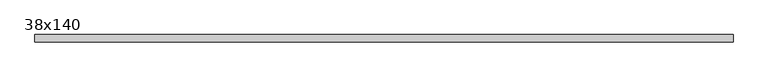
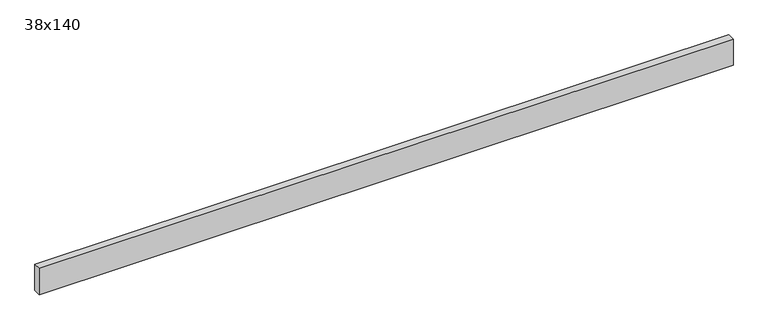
"""IFC4 building model written with IfcOpenShell, lengths in millimetres: beam geometry, Graded Timber : 38x140."""

from ifc_helpers import new_model, si_unit, frame, origin, place, context, project, spatial, polyline, outline, extrude, source, transform, mapped, element, save


def beam_38x140_0e3061da(model_context):
    return source(origin(), model_context, "Body", "SweptSolid", [
        extrude(outline(polyline([(1774.0211083, 19.0), (1774.0211083, -19.0), (-1742.7732391, -19.0), (-1742.7732391, 19.0), (1774.0211083, 19.0)])), frame((0.0, 0.0, -70.0), z_axis=(0.0, 0.0, 1.0), x_axis=(1.0, 0.0, 0.0)), (0.0, 0.0, 1.0), 140.0),
    ])


if __name__ == "__main__":
    model = new_model("IFC4")
    model_context = context("Model", 3, world=origin())
    ifc_project = project(units=[si_unit("LENGTHUNIT", "METRE", prefix="MILLI")], contexts=[model_context])
    site = spatial("IfcSite", under=ifc_project)
    building = spatial("IfcBuilding", under=site)
    placement = place(None, origin())
    beam_38x140_shape = beam_38x140_0e3061da(model_context)
    element("IfcBeam", 1, ObjectType="Graded Timber : 38x140", at=placement, inside=building, context=model_context, shape_type="MappedRepresentation", body=[
        mapped(beam_38x140_shape, transform((0.0, 0.0, 0.0), x_axis=(1.0, 0.0, 0.0), y_axis=(0.0, 1.0, 0.0), z_axis=(0.0, 0.0, 1.0))),
    ])
    save(model, "model.ifc")
